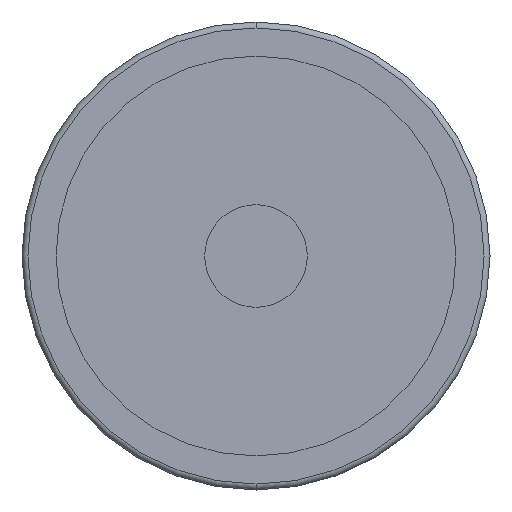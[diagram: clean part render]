
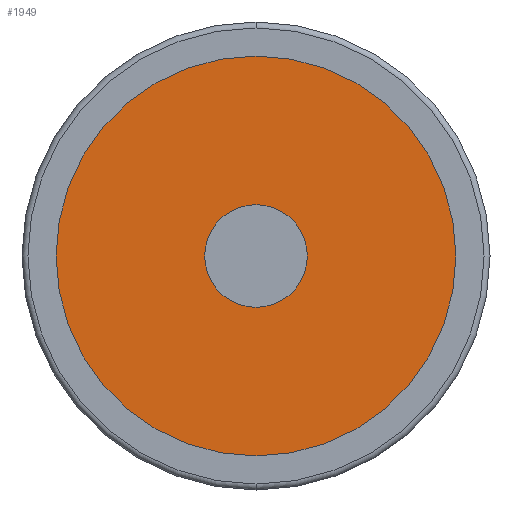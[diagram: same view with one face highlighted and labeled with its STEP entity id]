
A CAD part, front view. The second image highlights one B-rep face of the part: STEP entity #1949.
In plain terms, the highlighted planar face has unit normal (0, -1, 0).
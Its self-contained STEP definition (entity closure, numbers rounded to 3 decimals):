
#63 = ORIENTED_EDGE ( 'NONE', *, *, #2593, .T. ) ;
#155 = EDGE_CURVE ( 'NONE', #2830, #2944, #956, .T. ) ;
#340 = DIRECTION ( 'NONE',  ( 0., -1., 0. ) ) ;
#381 = DIRECTION ( 'NONE',  ( 0., -1., 0. ) ) ;
#407 = AXIS2_PLACEMENT_3D ( 'NONE', #1490, #2251, #968 ) ;
#418 = AXIS2_PLACEMENT_3D ( 'NONE', #2776, #340, #1045 ) ;
#428 = CARTESIAN_POINT ( 'NONE',  ( 0., 4.5, 0. ) ) ;
#442 = DIRECTION ( 'NONE',  ( 1., 0., 0. ) ) ;
#582 = CARTESIAN_POINT ( 'NONE',  ( -34.25, 4.5, 0. ) ) ;
#598 = DIRECTION ( 'NONE',  ( 0., -1., 0. ) ) ;
#692 = CARTESIAN_POINT ( 'NONE',  ( -8., 4.5, 0. ) ) ;
#715 = DIRECTION ( 'NONE',  ( 0., -1., 0. ) ) ;
#780 = EDGE_LOOP ( 'NONE', ( #2412, #63 ) ) ;
#801 = AXIS2_PLACEMENT_3D ( 'NONE', #2149, #598, #1102 ) ;
#804 = VERTEX_POINT ( 'NONE', #2256 ) ;
#917 = AXIS2_PLACEMENT_3D ( 'NONE', #428, #715, #442 ) ;
#956 = CIRCLE ( 'NONE', #801, 8. ) ;
#968 = DIRECTION ( 'NONE',  ( 1., 0., 0. ) ) ;
#971 = AXIS2_PLACEMENT_3D ( 'NONE', #2629, #381, #1377 ) ;
#1045 = DIRECTION ( 'NONE',  ( 1., 0., 0. ) ) ;
#1060 = PLANE ( 'NONE',  #418 ) ;
#1102 = DIRECTION ( 'NONE',  ( 1., 0., 0. ) ) ;
#1377 = DIRECTION ( 'NONE',  ( 1., 0., 0. ) ) ;
#1490 = CARTESIAN_POINT ( 'NONE',  ( 0., 4.5, 0. ) ) ;
#1556 = CIRCLE ( 'NONE', #971, 34.25 ) ;
#1593 = FACE_OUTER_BOUND ( 'NONE', #780, .T. ) ;
#1675 = VERTEX_POINT ( 'NONE', #582 ) ;
#1734 = CARTESIAN_POINT ( 'NONE',  ( 8., 4.5, 0. ) ) ;
#1889 = EDGE_LOOP ( 'NONE', ( #2080, #2254 ) ) ;
#1949 = ADVANCED_FACE ( 'NONE', ( #1593, #2336 ), #1060, .T. ) ;
#2080 = ORIENTED_EDGE ( 'NONE', *, *, #2615, .F. ) ;
#2136 = CIRCLE ( 'NONE', #407, 8. ) ;
#2149 = CARTESIAN_POINT ( 'NONE',  ( 0., 4.5, 0. ) ) ;
#2251 = DIRECTION ( 'NONE',  ( 0., -1., 0. ) ) ;
#2254 = ORIENTED_EDGE ( 'NONE', *, *, #155, .F. ) ;
#2256 = CARTESIAN_POINT ( 'NONE',  ( 34.25, 4.5, 0. ) ) ;
#2336 = FACE_BOUND ( 'NONE', #1889, .T. ) ;
#2344 = CIRCLE ( 'NONE', #917, 34.25 ) ;
#2412 = ORIENTED_EDGE ( 'NONE', *, *, #2853, .T. ) ;
#2593 = EDGE_CURVE ( 'NONE', #804, #1675, #2344, .T. ) ;
#2615 = EDGE_CURVE ( 'NONE', #2944, #2830, #2136, .T. ) ;
#2629 = CARTESIAN_POINT ( 'NONE',  ( 0., 4.5, 0. ) ) ;
#2776 = CARTESIAN_POINT ( 'NONE',  ( -34.25, 4.5, 0. ) ) ;
#2830 = VERTEX_POINT ( 'NONE', #692 ) ;
#2853 = EDGE_CURVE ( 'NONE', #1675, #804, #1556, .T. ) ;
#2944 = VERTEX_POINT ( 'NONE', #1734 ) ;
